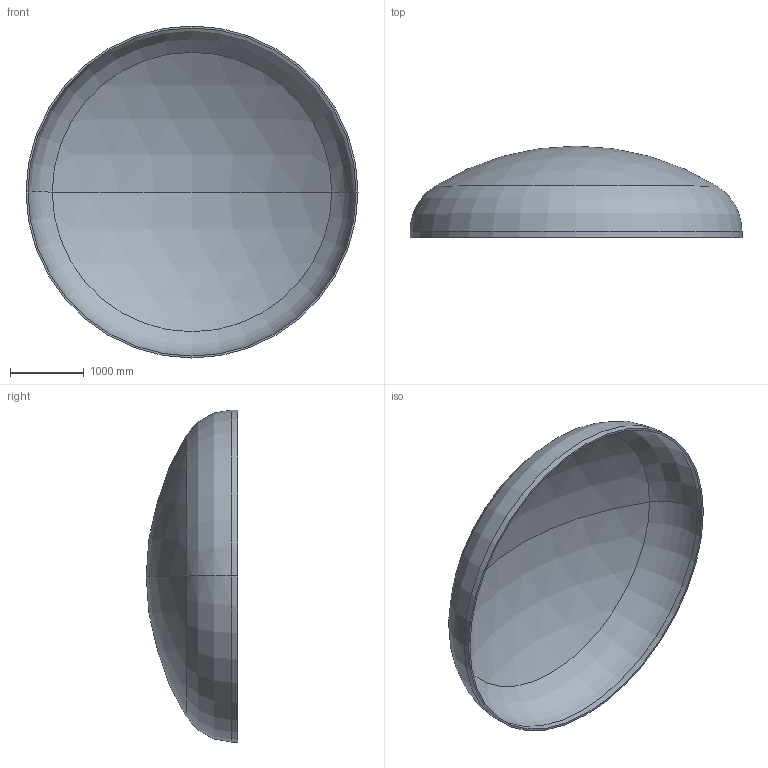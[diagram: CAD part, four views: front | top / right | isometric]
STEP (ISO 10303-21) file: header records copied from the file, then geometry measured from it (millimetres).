
FILE_DESCRIPTION (( 'STEP AP203' ), '1' );
FILE_NAME ('DIN 28013 Korbbogenform_-_Boden DIN 28013 - 4500 x 85 - I - s=26.step', '2016-07-01T23:13:30', ( '' ), ( '' ), 'SwSTEP 2.0', 'SolidWorks 2013', '' );
FILE_SCHEMA (( 'CONFIG_CONTROL_DESIGN' ));
Length unit declared in the file: millimetre
Products named in the file (1): DIN 28013 Korbbogenform_-_Boden DIN 28013 - 4500 x 85 - I - s=26
Bounding box: 4500 x 1240.94 x 4500 mm (x, y, z)
Volume: 599747067.6 mm3; surface area: 46501230.3 mm2
Topology: 1 solids, 1 shells, 13 faces, 24 edges, 14 vertices
Faces by surface type: torus 4, cylinder 4, sphere 4, plane 1
Entity records: 407 total; most frequent: DIRECTION 72, CARTESIAN_POINT 52, ORIENTED_EDGE 48, AXIS2_PLACEMENT_3D 34, EDGE_CURVE 24, CIRCLE 20, VERTEX_POINT 14, EDGE_LOOP 14
